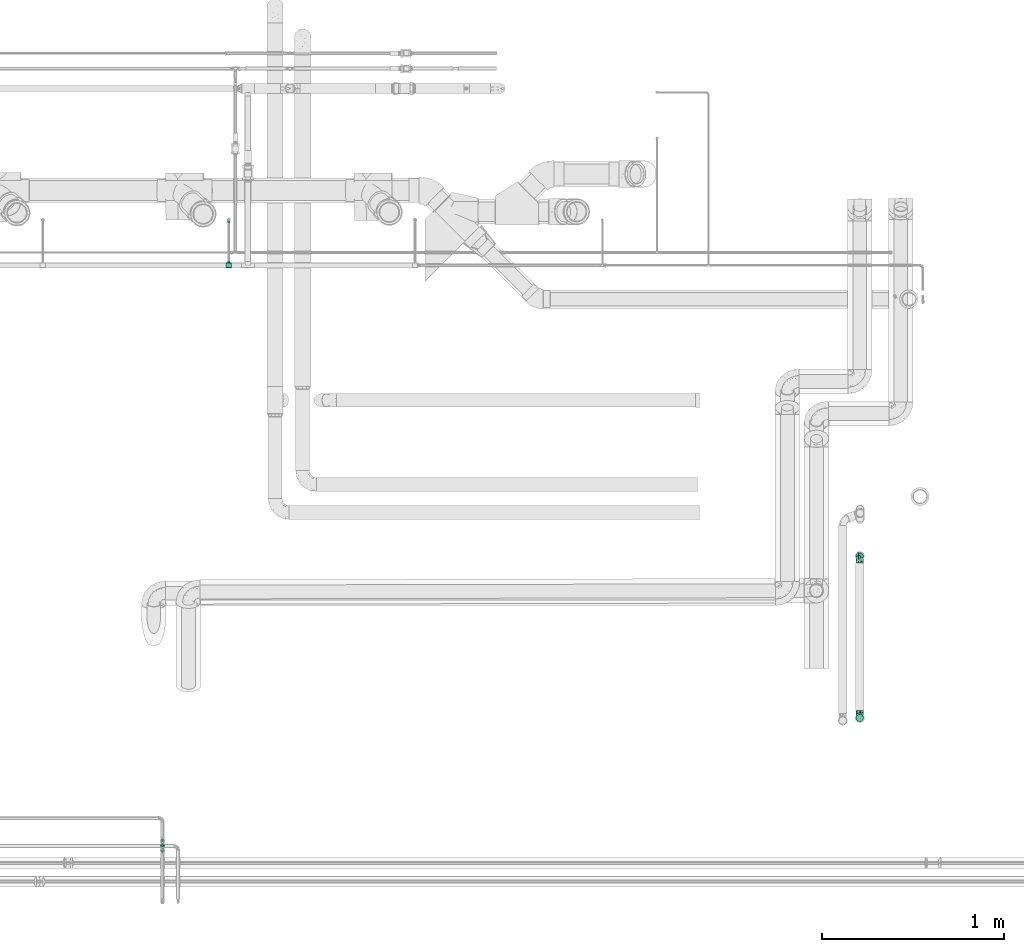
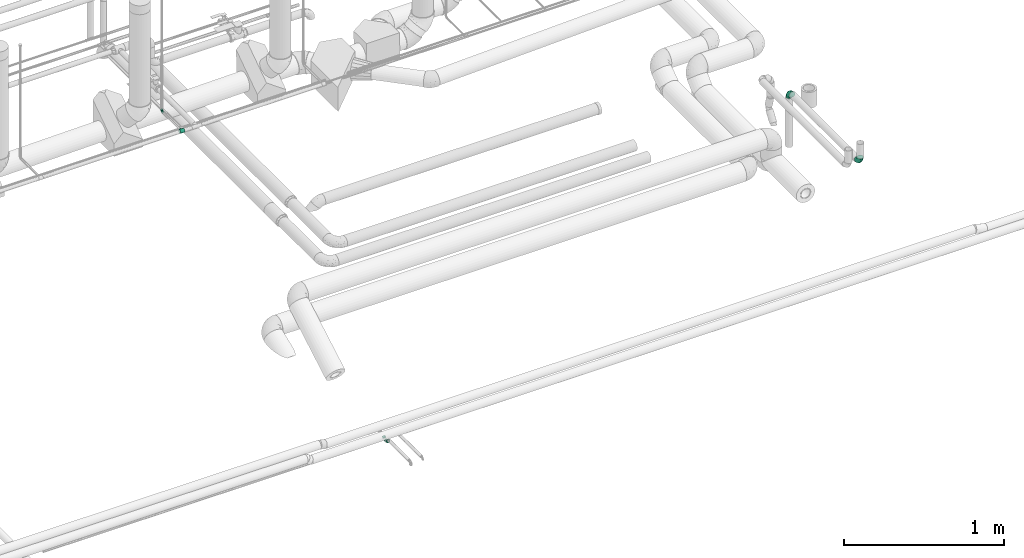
# One storey, part 84 of 156: 4 flow fittings, 3 flow segments.
"""IFC2X3 building model written with IfcOpenShell, lengths in millimetres."""

from ifc_helpers import new_model, entity, si_unit, converted_unit, derived_unit, direction, frame, origin_with_axes, origin_2d_with_axis, place, context, subcontext, project, spatial, hollow_circle, extrude, open_shell, surface_model, source, transform, mapped, type_object, element, save


model = new_model("IFC2X3")

# Units and contexts
model_context = context("Model", 3, precision=0.01, world=frame((0.0, 4.29681676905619e-09, 0.0)), true_north=direction((4.01073788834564e-13, 1.0)))
plan_context = context("Plan", 3, precision=0.01, world=frame((0.0, 4.29681676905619e-09, 0.0)), true_north=direction((4.01073788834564e-13, 1.0)))
body_context = subcontext(model_context, "Body", "Model", "MODEL_VIEW")
ifc_project = project(units=[converted_unit("PLANEANGLEUNIT", "DEGREE", entity("IfcPositiveLengthMeasure", 0.0174532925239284), si_unit("PLANEANGLEUNIT", "RADIAN"), dimensions=[0, 0, 0, 0, 0, 0, 0]), si_unit("AREAUNIT", "SQUARE_METRE"), si_unit("LENGTHUNIT", "METRE", prefix="MILLI"), si_unit("MASSUNIT", "GRAM", prefix="KILO"), si_unit("POWERUNIT", "WATT"), si_unit("PRESSUREUNIT", "PASCAL", prefix="KILO"), si_unit("FORCEUNIT", "NEWTON", prefix="KILO"), si_unit("ELECTRICVOLTAGEUNIT", "VOLT"), si_unit("ELECTRICCURRENTUNIT", "AMPERE"), si_unit("THERMODYNAMICTEMPERATUREUNIT", "DEGREE_CELSIUS"), si_unit("TIMEUNIT", "SECOND"), si_unit("VOLUMEUNIT", "CUBIC_METRE"), derived_unit("LINEARVELOCITYUNIT", [(si_unit("LENGTHUNIT", "METRE"), 1), (si_unit("TIMEUNIT", "SECOND"), -1)]), derived_unit("VOLUMETRICFLOWRATEUNIT", [(si_unit("VOLUMEUNIT", "CUBIC_METRE"), 1), (si_unit("TIMEUNIT", "SECOND"), -1)]), derived_unit("THERMALTRANSMITTANCEUNIT", [(si_unit("POWERUNIT", "WATT"), 1), (si_unit("THERMODYNAMICTEMPERATUREUNIT", "KELVIN"), -1), (si_unit("AREAUNIT", "SQUARE_METRE"), -1)]), derived_unit("SOUNDPRESSUREUNIT", [(si_unit("PRESSUREUNIT", "PASCAL"), 1)])], contexts=[model_context, plan_context])

# Site, building, storey
site_placement = place(None, frame((0.0, -4.29681676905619e-09, 0.0), z_axis=(0.0, 0.0, 1.0), x_axis=(1.0, 0.0, 0.0)))
site = spatial("IfcSite", under=ifc_project, at=site_placement, CompositionType="ELEMENT")
building_placement = place(site_placement, frame((0.0, 4.29681676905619e-09, 0.0), z_axis=(0.0, 0.0, 1.0), x_axis=(1.0, 0.0, 0.0)))
building = spatial("IfcBuilding", under=site, at=building_placement, Name="mc-building", CompositionType="ELEMENT")
storey_placement = place(building_placement, frame((0.0, 0.0, 205200.0), z_axis=(0.0, 0.0, 1.0), x_axis=(1.0, 0.0, 0.0)))
storey = spatial("IfcBuildingStorey", under=building, at=storey_placement, Name="Nivå D + 1,2 m", CompositionType="ELEMENT", Elevation=205200.0)

# Flow fittings
pipe_fitting_type_1 = type_object("IfcPipeFittingType", Name="magi_pipe_elbow_short_001", PredefinedType="BEND")
shared_shape_1 = source(origin_with_axes(), body_context, "Body", "SurfaceModel", [
    surface_model("IfcShellBasedSurfaceModel", [(-15.0, 0.0, -7.5), (-15.0, -6.49519, -3.75), (-15.0, 1.94114, -7.24444), (-15.0, 3.75, -6.49519), (-15.0, 5.3033, -5.3033), (-15.0, 7.24444, -1.94114), (-15.0, 6.49519, -3.75), (-15.0, -5.3033, -5.3033), (-15.0, -3.75, -6.49519), (-15.0, -1.94114, -7.24444), (-15.0, -7.24444, -1.94114), (-15.0, -7.5, 0.0), (-15.0, -6.49519, 3.75), (-15.0, 7.24444, 1.94114), (-15.0, 6.49519, 3.75), (-15.0, 3.75, 6.49519), (-15.0, 1.94114, 7.24444), (-15.0, 5.3033, 5.3033), (-15.0, -5.3033, 5.3033), (-15.0, -7.24444, 1.94114), (-15.0, -1.94114, 7.24444), (-15.0, 0.0, 7.5), (-15.0, -3.75, 6.49519), (-15.0, 7.5, 0.0), (-1.94114, 15.0, -7.24444), (6.49519, 15.0, -3.75), (0.0, 15.0, -7.5), (-5.3033, 15.0, -5.3033), (-3.75, 15.0, -6.49519), (-6.49519, 15.0, -3.75), (-7.24444, 15.0, -1.94114), (3.75, 15.0, -6.49519), (5.3033, 15.0, -5.3033), (1.94114, 15.0, -7.24444), (7.5, 15.0, 0.0), (7.24444, 15.0, -1.94114), (-7.24444, 15.0, 1.94114), (6.49519, 15.0, 3.75), (-3.75, 15.0, 6.49519), (-6.49519, 15.0, 3.75), (-1.94114, 15.0, 7.24444), (-5.3033, 15.0, 5.3033), (5.3033, 15.0, 5.3033), (7.24444, 15.0, 1.94114), (3.75, 15.0, 6.49519), (0.0, 15.0, 7.5), (1.94114, 15.0, 7.24444), (-7.5, 15.0, 0.0), (-13.40845, -7.07355, 0.0), (-8.7589, -2.47707, 6.60232), (-8.6338, -5.79418, 0.0), (-3.75, -4.48557, 0.0), (0.36779, -0.36779, 0.0), (2.42668, 1.69111, 0.0), (-2.25176, 0.98822, 6.3797), (-1.69111, -2.42668, 0.0), (-11.8169, -6.64709, 0.0), (-5.9304, 5.9304, 7.17811), (-4.11647, 8.02676, 7.20749), (2.47708, 8.7589, 6.60232), (1.67739, 4.87408, 5.99192), (4.48557, 3.75, 0.0), (-4.78013, -1.73268, 5.91836), (7.07355, 13.40845, 0.0), (6.64709, 11.8169, 0.0), (-8.02675, 4.11647, 7.20749), (-8.59835, 12.34835, 0.0), (-12.34835, 8.59835, 0.0), (-9.6967, 9.6967, 0.0), (5.79418, 8.6338, 0.0), (-8.7589, -2.47707, -6.60232), (-4.11647, 8.02676, -7.20749), (0.71542, 3.43733, -5.99192), (-2.23993, 1.78364, -6.69976), (2.47708, 8.7589, -6.60232), (-11.39207, 6.08032, -5.22727), (-7.08629, 1.82323, -7.49084), (-8.19523, 6.76007, -6.13545)], [open_shell([[[0, 1, 2]], [[3, 2, 4]], [[5, 6, 4]], [[4, 2, 1]], [[5, 4, 1]], [[7, 1, 8]], [[9, 8, 1]], [[10, 11, 1]], [[0, 9, 1]], [[11, 12, 1]], [[12, 5, 1]], [[13, 5, 12]], [[14, 13, 15]], [[13, 16, 15]], [[17, 14, 15]], [[16, 13, 12]], [[12, 18, 16]], [[12, 11, 19]], [[20, 21, 22]], [[18, 22, 21]], [[16, 18, 21]], [[13, 23, 5]], [[24, 25, 26]], [[27, 24, 28]], [[27, 29, 30]], [[25, 24, 27]], [[25, 27, 30]], [[31, 25, 32]], [[25, 31, 33]], [[25, 34, 35]], [[25, 33, 26]], [[30, 34, 25]], [[30, 36, 34]], [[34, 36, 37]], [[38, 36, 39]], [[38, 40, 36]], [[38, 39, 41]], [[37, 36, 40]], [[40, 42, 37]], [[43, 34, 37]], [[44, 45, 46]], [[45, 44, 42]], [[45, 42, 40]], [[36, 30, 47]], [[19, 48, 12]], [[49, 50, 51]], [[52, 53, 54]], [[54, 55, 52]], [[22, 18, 56]], [[12, 56, 18]], [[57, 54, 58]], [[22, 50, 20]], [[21, 20, 50]], [[59, 60, 61]], [[59, 58, 60]], [[55, 54, 62]], [[21, 50, 49]], [[21, 49, 16]], [[62, 49, 51]], [[62, 51, 55]], [[37, 63, 43]], [[49, 15, 16]], [[64, 63, 37]], [[13, 65, 23]], [[14, 17, 49]], [[54, 65, 62]], [[15, 49, 17]], [[57, 58, 66]], [[67, 57, 68]], [[53, 60, 54]], [[46, 45, 69]], [[69, 44, 46]], [[41, 59, 38]], [[40, 59, 45]], [[42, 44, 64]], [[54, 60, 58]], [[64, 44, 69]], [[61, 60, 53]], [[43, 63, 34]], [[59, 61, 69]], [[58, 47, 66]], [[22, 56, 50]], [[54, 57, 65]], [[49, 65, 14]], [[36, 47, 58]], [[64, 37, 42]], [[39, 36, 58]], [[14, 65, 13]], [[41, 39, 59]], [[19, 11, 48]], [[39, 58, 59]], [[48, 56, 12]], [[38, 59, 40]], [[59, 69, 45]], [[49, 62, 65]], [[57, 67, 65]], [[66, 68, 57]], [[67, 23, 65]], [[70, 50, 0]], [[71, 72, 73]], [[74, 71, 29]], [[70, 2, 3]], [[70, 51, 50]], [[35, 34, 63]], [[75, 4, 6]], [[75, 5, 23]], [[6, 5, 75]], [[51, 76, 55]], [[75, 23, 67]], [[70, 4, 75]], [[48, 11, 10]], [[8, 56, 7]], [[0, 50, 9]], [[51, 70, 76]], [[56, 8, 50]], [[8, 9, 50]], [[70, 0, 2]], [[66, 47, 71]], [[52, 72, 53]], [[4, 70, 3]], [[70, 75, 76]], [[73, 52, 55]], [[71, 68, 66]], [[61, 53, 72]], [[31, 64, 69]], [[30, 71, 47]], [[27, 74, 29]], [[56, 1, 7]], [[28, 24, 74]], [[63, 64, 25]], [[56, 48, 1]], [[28, 74, 27]], [[1, 48, 10]], [[26, 74, 24]], [[33, 69, 26]], [[29, 71, 30]], [[32, 64, 31]], [[69, 33, 31]], [[68, 71, 77]], [[74, 26, 69]], [[25, 35, 63]], [[61, 72, 74]], [[61, 74, 69]], [[67, 77, 75]], [[74, 72, 71]], [[25, 64, 32]], [[76, 77, 73]], [[75, 77, 76]], [[77, 71, 73]], [[55, 76, 73]], [[72, 52, 73]], [[77, 67, 68]]])]),
])
flow_fitting_1_placement = place(storey_placement, frame((326629.5275, 462562.63355, 4318.0), z_axis=(1.0, 0.0, 0.0), x_axis=(0.0, 1.0, 0.0)))
element("IfcFlowFitting", 1, at=flow_fitting_1_placement, inside=storey, type_object=pipe_fitting_type_1, Name="magi_pipe_elbow_short_001", context=body_context, shape_type="MappedRepresentation", body=[
    mapped(shared_shape_1, transform((0.0, 0.0, 0.0), scale=1.0)),
])
pipe_fitting_type_2 = type_object("IfcPipeFittingType", Name="magi_pipe_tee_centric_90_001", PredefinedType="JUNCTION")
shared_shape_2 = source(origin_with_axes(), body_context, "Body", "SurfaceModel", [
    surface_model("IfcShellBasedSurfaceModel", [(-15.0, 3.62347, -13.52296), (-15.0, 0.0, -14.0), (-15.0, 9.89949, -9.89949), (-15.0, 7.0, -12.12436), (-15.0, 13.52296, -3.62347), (-15.0, 12.12436, -7.0), (-15.0, -12.12436, -7.0), (-15.0, -9.89949, -9.89949), (-15.0, -7.0, -12.12436), (-15.0, -3.62347, -13.52296), (-15.0, -13.52296, -3.62347), (-15.0, -14.0, 0.0), (-15.0, 14.0, 0.0), (-15.0, 12.12436, 7.0), (-15.0, 13.52296, 3.62347), (-15.0, 3.62347, 13.52296), (-15.0, 7.0, 12.12436), (-15.0, 9.89949, 9.89949), (-15.0, 0.0, 14.0), (-15.0, -13.52296, 3.62347), (-15.0, -12.12436, 7.0), (-15.0, -9.89949, 9.89949), (-15.0, -7.0, 12.12436), (-15.0, -3.62347, 13.52296), (15.0, 9.89949, -9.89949), (15.0, 0.0, -14.0), (15.0, 3.62347, -13.52296), (15.0, 7.0, -12.12436), (15.0, 12.12436, -7.0), (15.0, 13.52296, -3.62347), (15.0, -12.12436, -7.0), (15.0, -7.0, -12.12436), (15.0, -9.89949, -9.89949), (15.0, -3.62347, -13.52296), (15.0, -14.0, 0.0), (15.0, -13.52296, -3.62347), (15.0, -7.0, 12.12436), (15.0, 14.0, 0.0), (15.0, 13.52296, 3.62347), (15.0, 12.12436, 7.0), (15.0, 3.62347, 13.52296), (15.0, 7.0, 12.12436), (15.0, 9.89949, 9.89949), (15.0, 0.0, 14.0), (15.0, -12.12436, 7.0), (15.0, -13.52296, 3.62347), (15.0, -9.89949, 9.89949), (15.0, -3.62347, 13.52296), (15.0, -13.76148, 1.81173), (7.03381, -13.75589, 2.60297), (7.5, -14.0, 0.0), (5.73139, -13.13769, 4.83748), (1.3253, -11.89565, 7.38198), (15.0, -12.82366, 5.31173), (3.77416, -12.40944, 6.48118), (-3.77483, -12.40965, 6.48079), (-15.0, -12.82366, 5.31173), (-5.73324, -13.1385, 4.83528), (-7.03405, -13.75601, 2.60233), (-15.0, -13.76148, 1.81173), (-7.5, -14.0, 0.0), (-1.32746, -11.89589, 7.38159), (-5.73324, -13.1385, -4.83528), (-15.0, -12.82366, -5.31173), (-15.0, -13.76148, -1.81173), (-7.03405, -13.75601, -2.60233), (3.77416, -12.40944, -6.48118), (15.0, -12.82366, -5.31173), (5.73139, -13.13769, -4.83748), (1.3253, -11.89565, -7.38198), (7.03381, -13.75589, -2.60297), (15.0, -13.76148, -1.81173), (-1.32746, -11.89589, -7.38159), (-3.77483, -12.40965, -6.48079), (5.3033, -21.0, -5.3033), (0.0, -21.0, -7.5), (1.94114, -21.0, -7.24444), (3.75, -21.0, -6.49519), (6.49519, -21.0, -3.75), (7.24444, -21.0, -1.94114), (-5.3033, -21.0, -5.3033), (-7.5, -21.0, 0.0), (-1.94114, -21.0, -7.24444), (-3.75, -21.0, -6.49519), (-6.49519, -21.0, -3.75), (-7.24444, -21.0, -1.94114), (3.75, -21.0, 6.49519), (7.5, -21.0, 0.0), (7.24444, -21.0, 1.94114), (6.49519, -21.0, 3.75), (0.0, -21.0, 7.5), (5.3033, -21.0, 5.3033), (1.94114, -21.0, 7.24444), (-7.24444, -21.0, 1.94114), (-5.3033, -21.0, 5.3033), (-6.49519, -21.0, 3.75), (-3.75, -21.0, 6.49519), (-1.94114, -21.0, 7.24444)], [open_shell([[[0, 1, 2]], [[3, 0, 2]], [[1, 4, 5]], [[2, 1, 5]], [[6, 4, 1]], [[7, 6, 8]], [[9, 8, 6]], [[10, 11, 6]], [[1, 9, 6]], [[6, 11, 4]], [[11, 12, 4]], [[13, 14, 12]], [[15, 13, 12]], [[13, 15, 16]], [[17, 13, 16]], [[18, 15, 12]], [[19, 20, 11]], [[20, 21, 11]], [[22, 23, 12]], [[21, 22, 11]], [[12, 23, 18]], [[12, 11, 22]], [[24, 25, 26]], [[24, 26, 27]], [[28, 29, 25]], [[28, 25, 24]], [[25, 29, 30]], [[31, 30, 32]], [[30, 31, 33]], [[30, 34, 35]], [[30, 33, 25]], [[30, 36, 34]], [[30, 29, 37]], [[37, 38, 39]], [[37, 39, 40]], [[41, 40, 39]], [[41, 39, 42]], [[37, 40, 43]], [[34, 44, 45]], [[34, 46, 44]], [[47, 36, 30]], [[34, 36, 46]], [[43, 47, 37]], [[30, 37, 47]], [[48, 45, 49]], [[50, 34, 48]], [[45, 51, 49]], [[44, 46, 52]], [[50, 48, 49]], [[51, 53, 54]], [[52, 54, 44]], [[46, 21, 52]], [[54, 53, 44]], [[55, 56, 57]], [[58, 59, 60]], [[11, 60, 59]], [[58, 57, 19]], [[55, 61, 20]], [[51, 45, 53]], [[20, 56, 55]], [[20, 61, 21]], [[57, 56, 19]], [[61, 52, 21]], [[58, 19, 59]], [[46, 22, 21]], [[18, 47, 43]], [[23, 36, 47]], [[15, 43, 40]], [[39, 38, 14]], [[17, 41, 42]], [[13, 42, 39]], [[40, 41, 16]], [[12, 38, 37]], [[22, 36, 23]], [[23, 47, 18]], [[15, 18, 43]], [[40, 16, 15]], [[16, 41, 17]], [[13, 17, 42]], [[14, 13, 39]], [[38, 12, 14]], [[36, 22, 46]], [[29, 12, 37]], [[4, 29, 28]], [[28, 24, 5]], [[9, 25, 33]], [[62, 10, 63]], [[1, 26, 25]], [[27, 26, 0]], [[33, 31, 8]], [[24, 27, 2]], [[2, 5, 24]], [[5, 4, 28]], [[4, 12, 29]], [[60, 64, 65]], [[3, 2, 27]], [[26, 1, 0]], [[25, 9, 1]], [[33, 8, 9]], [[66, 67, 68]], [[27, 0, 3]], [[31, 7, 8]], [[32, 30, 69]], [[70, 35, 71]], [[66, 69, 30]], [[67, 66, 30]], [[32, 69, 7]], [[34, 50, 71]], [[70, 68, 35]], [[70, 71, 50]], [[35, 68, 67]], [[72, 73, 6]], [[6, 7, 72]], [[62, 63, 73]], [[72, 7, 69]], [[62, 65, 10]], [[65, 64, 10]], [[64, 60, 11]], [[63, 6, 73]], [[32, 7, 31]], [[74, 75, 76]], [[74, 76, 77]], [[74, 78, 79]], [[75, 74, 80]], [[81, 74, 79]], [[82, 80, 83]], [[82, 75, 80]], [[84, 81, 85]], [[81, 84, 80]], [[74, 81, 80]], [[79, 86, 81]], [[87, 88, 89]], [[89, 86, 79]], [[86, 90, 81]], [[86, 89, 91]], [[90, 86, 92]], [[93, 94, 95]], [[94, 93, 90]], [[96, 90, 97]], [[90, 96, 94]], [[81, 90, 93]], [[89, 79, 87]], [[60, 81, 93]], [[58, 95, 94]], [[93, 95, 60]], [[94, 96, 58]], [[60, 95, 58]], [[57, 58, 97]], [[61, 55, 54]], [[57, 51, 55]], [[97, 90, 57]], [[96, 97, 58]], [[92, 51, 90]], [[86, 49, 92]], [[49, 91, 89]], [[86, 91, 49]], [[50, 89, 88]], [[51, 54, 55]], [[52, 61, 54]], [[89, 50, 49]], [[49, 51, 92]], [[88, 87, 50]], [[57, 90, 51]], [[50, 87, 79]], [[70, 78, 74]], [[79, 78, 50]], [[74, 77, 70]], [[50, 78, 70]], [[68, 70, 76]], [[69, 66, 72]], [[68, 73, 66]], [[76, 75, 68]], [[77, 76, 70]], [[62, 75, 82]], [[83, 65, 82]], [[65, 80, 84]], [[83, 80, 65]], [[60, 84, 85]], [[62, 73, 68]], [[72, 66, 73]], [[84, 60, 65]], [[65, 62, 82]], [[85, 81, 60]], [[68, 75, 62]]])]),
])
flow_fitting_2_placement = place(storey_placement, frame((326629.5275, 462313.63355, 4318.0), z_axis=(0.0, 0.0, 1.0), x_axis=(-1.0, 0.0, 0.0)))
element("IfcFlowFitting", 2, at=flow_fitting_2_placement, inside=storey, type_object=pipe_fitting_type_2, Name="magi_pipe_tee_centric_90_001", context=body_context, shape_type="MappedRepresentation", body=[
    mapped(shared_shape_2, transform((0.0, 0.0, 0.0), scale=1.0)),
])
shared_shape_3 = source(origin_with_axes(), body_context, "Body", "SurfaceModel", [
    surface_model("IfcShellBasedSurfaceModel", [(-40.0, 0.0, -20.0), (-40.0, -14.14214, -14.14214), (-40.0, 5.17638, -19.31852), (-40.0, 10.0, -17.32051), (-40.0, 14.14214, -14.14214), (-40.0, 19.31852, -5.17638), (-40.0, 17.32051, -10.0), (-40.0, -20.0, 0.0), (-40.0, 17.32051, 10.0), (-40.0, -10.0, -17.32051), (-40.0, -5.17638, -19.31852), (-40.0, -19.31852, -5.17638), (-40.0, -17.32051, -10.0), (-40.0, 20.0, 0.0), (-40.0, 19.31852, 5.17638), (-40.0, 5.17638, 19.31852), (-40.0, 10.0, 17.32051), (-40.0, 14.14214, 14.14214), (-40.0, -14.14214, 14.14214), (-40.0, -19.31852, 5.17638), (-40.0, -17.32051, 10.0), (-40.0, -10.0, 17.32051), (-40.0, -5.17638, 19.31852), (-40.0, 0.0, 20.0), (-5.17638, 40.0, -19.31852), (14.14214, 40.0, -14.14214), (0.0, 40.0, -20.0), (-14.14214, 40.0, -14.14214), (-10.0, 40.0, -17.32051), (-17.32051, 40.0, -10.0), (-19.31852, 40.0, -5.17638), (14.14214, 40.0, 14.14214), (20.0, 40.0, 0.0), (5.17638, 40.0, -19.31852), (10.0, 40.0, -17.32051), (17.32051, 40.0, -10.0), (19.31852, 40.0, -5.17638), (-20.0, 40.0, 0.0), (-19.31852, 40.0, 5.17638), (-17.32051, 40.0, 10.0), (-10.0, 40.0, 17.32051), (-5.17638, 40.0, 19.31852), (-14.14214, 40.0, 14.14214), (17.32051, 40.0, 10.0), (19.31852, 40.0, 5.17638), (5.17638, 40.0, 19.31852), (10.0, 40.0, 17.32051), (0.0, 40.0, 20.0), (-29.34188, -15.53782, 11.22746), (-26.26375, -11.53868, 14.90313), (-28.5195, -17.71639, 0.0), (-17.67969, -12.73676, 10.09432), (-26.581, -17.45622, 6.2376), (17.45622, 26.581, 6.2376), (14.11254, 15.66731, 5.12705), (15.43277, 17.03899, 0.0), (9.12884, 16.19937, 13.67918), (11.53868, 26.26374, 14.90313), (4.85407, 15.45219, 16.6156), (-29.39654, -7.56287, 17.99385), (-30.5536, -2.64945, 19.65795), (-28.00649, 3.06573, 19.96591), (-31.36589, 16.64512, 13.11423), (-28.65389, 20.90373, 9.14387), (-35.012, 18.78056, 8.28737), (-7.30629, -8.92959, 0.0), (-15.66731, -14.11254, 5.12706), (-17.03899, -15.43277, 0.0), (-21.08206, 22.33578, 14.16691), (-7.46564, 34.49868, 18.73357), (-2.74108, 29.91718, 19.95088), (-34.60263, 12.11166, 16.29648), (-1.72118, -3.38092, 9.01154), (-0.33521, 0.41269, 11.94686), (-6.79863, -4.78945, 12.32213), (-5.22056, 13.39548, 19.63795), (-9.93759, 3.66904, 18.67597), (-2.04318, 10.80545, 18.37976), (-20.59063, 29.29402, 9.05298), (-30.99684, 23.72923, 0.0), (-33.3079, 20.46931, 5.03972), (-30.83014, 7.84391, 18.89286), (-6.95093, 19.66798, 19.96412), (-14.81429, 14.81429, 19.51404), (-11.90902, 8.73983, 19.89698), (-3.57257, 3.57257, 16.3517), (-15.45219, -4.85407, 16.6156), (-19.91187, -0.17948, 19.38507), (12.73676, 17.67969, 10.09432), (15.53782, 29.34188, 11.22746), (7.56287, 29.39654, 17.99385), (2.64945, 30.5536, 19.65795), (-16.19937, -9.12884, 13.67918), (17.71639, 28.5195, 0.0), (-8.64963, 27.10049, 19.0472), (-12.63856, 30.97531, 16.57751), (-15.12775, 21.6204, 17.82326), (-16.43269, 26.57078, 15.30466), (-21.36029, 17.94675, 16.62052), (-27.3569, 23.76542, 4.76906), (-25.85786, 25.85786, 0.0), (-21.96234, 30.15713, 4.65165), (-16.51055, 31.89032, 13.05667), (-21.9775, 8.56694, 19.64209), (-19.62526, 4.90086, 19.99146), (-21.26232, 13.57052, 18.49883), (-11.65033, 20.761, 19.15903), (0.17948, 19.91187, 19.38507), (-27.54091, 13.57635, 16.84206), (4.55434, 6.94667, 12.66832), (-9.49254, -8.92796, 9.38786), (1.18751, -2.59773, 5.41318), (6.0734, 3.56218, 6.98463), (6.20309, 2.0761, 2.99722), (10.30126, 8.34257, 4.72404), (-23.72923, 30.99684, 0.0), (10.04165, 10.37513, 8.39403), (-5.39039, -7.95342, 5.80688), (2.42641, -2.42641, 0.0), (8.92959, 7.30629, 0.0), (-31.66153, 2.52887, -19.93491), (-17.30171, 29.27577, -13.34599), (-33.67189, -15.92112, -11.62006), (-30.77478, 7.85272, -18.89521), (-27.29854, 23.72276, -5.04381), (-16.33902, -5.04741, -16.77956), (-17.36687, -0.24948, -19.02234), (-8.03574, -0.33468, -16.38792), (-29.03652, 13.11356, -16.72682), (-31.62186, 16.57796, -13.08611), (11.94876, 28.93478, -15.1003), (6.90221, 25.32803, -17.78753), (7.88461, 33.77796, -18.20228), (-24.1205, 18.32787, -15.08398), (14.83158, 25.12948, -10.8327), (14.84608, 18.55034, -6.5666), (11.54106, 15.25773, -10.25258), (-18.52291, 23.24513, -15.40032), (-14.24293, 24.4556, -17.36881), (-18.4841, 18.4841, -17.5607), (-30.25505, -18.06161, 0.0), (-29.17694, -17.90454, -6.52017), (15.92112, 33.67189, -11.62006), (17.90454, 29.17694, -6.52017), (-8.70346, -9.83449, -6.69305), (-18.55035, -14.84608, -6.5666), (-28.93478, -11.94876, -15.1003), (0.19553, 0.48879, -11.49974), (-6.75335, -6.30847, -10.52412), (-6.08129, -2.80708, -13.65166), (-25.12948, -14.83158, -10.8327), (0.84196, 9.39483, -16.67908), (0.24948, 17.36687, -19.02234), (4.13362, 17.07423, -17.47196), (-29.4664, -2.52175, -19.63432), (-33.77796, -7.88461, -18.20228), (-21.82705, -9.13211, -15.70364), (2.52175, 29.4664, -19.63432), (-33.89754, 20.64393, -3.42388), (2.01203, -1.52334, -6.02964), (-19.61026, 31.73902, -8.71711), (-20.93556, 32.45716, -4.4545), (-15.25774, -11.54106, -10.25258), (-7.06048, 7.06048, -18.88537), (-24.30425, 23.77923, -9.81047), (-2.52887, 31.66153, -19.93491), (-8.16417, 29.098, -18.96542), (-12.55313, 31.39831, -16.5449), (-25.32803, -6.90221, -17.78753), (3.46973, 6.97784, -13.67949), (8.1585, 14.93305, -13.99093), (6.60421, 7.04526, -10.40775), (-4.72795, 22.03311, -19.99568), (9.83449, 8.70346, -6.69305), (-10.81456, 11.67039, -19.98865), (-11.83412, 18.95999, -19.40472), (-19.74646, 11.57433, -19.33963), (-31.97533, 19.65868, -8.43762), (18.06161, 30.25505, 0.0), (-22.03311, 4.72795, -19.99568), (-22.92893, 32.92893, 0.0), (-14.93305, -8.1585, -13.99093), (-22.3042, 22.6511, -12.97687)], [open_shell([[[0, 1, 2]], [[3, 2, 4]], [[5, 6, 4]], [[4, 2, 1]], [[4, 7, 8]], [[9, 1, 10]], [[1, 0, 10]], [[11, 7, 12]], [[1, 12, 7]], [[1, 7, 4]], [[13, 5, 4]], [[8, 14, 13]], [[7, 15, 8]], [[8, 15, 16]], [[17, 8, 16]], [[18, 15, 7]], [[19, 20, 7]], [[7, 20, 18]], [[21, 22, 18]], [[22, 15, 18]], [[15, 22, 23]], [[8, 13, 4]], [[24, 25, 26]], [[27, 24, 28]], [[27, 29, 30]], [[25, 24, 27]], [[31, 32, 27]], [[33, 25, 34]], [[33, 26, 25]], [[35, 32, 36]], [[32, 35, 25]], [[27, 32, 25]], [[27, 30, 31]], [[37, 38, 39]], [[30, 39, 31]], [[40, 41, 39]], [[40, 39, 42]], [[31, 39, 41]], [[32, 43, 44]], [[31, 43, 32]], [[31, 45, 46]], [[31, 41, 45]], [[47, 45, 41]], [[30, 37, 39]], [[18, 48, 49]], [[19, 7, 50]], [[51, 48, 52]], [[53, 54, 55]], [[48, 18, 20]], [[19, 52, 20]], [[56, 57, 58]], [[49, 21, 18]], [[49, 59, 21]], [[23, 60, 61]], [[62, 63, 64]], [[65, 66, 67]], [[57, 31, 46]], [[62, 68, 63]], [[41, 69, 70]], [[16, 71, 17]], [[22, 60, 23]], [[72, 73, 74]], [[75, 76, 77]], [[17, 62, 8]], [[39, 38, 78]], [[79, 13, 80]], [[64, 14, 8]], [[23, 61, 15]], [[15, 81, 16]], [[82, 83, 84]], [[74, 85, 86]], [[59, 86, 87]], [[88, 89, 57]], [[90, 46, 45]], [[43, 53, 44]], [[45, 47, 91]], [[54, 53, 88]], [[43, 89, 53]], [[92, 86, 49]], [[89, 43, 31]], [[21, 59, 22]], [[53, 55, 93]], [[93, 44, 53]], [[66, 52, 67]], [[94, 82, 70]], [[95, 96, 94]], [[97, 98, 96]], [[79, 99, 100]], [[40, 42, 95]], [[101, 100, 99]], [[68, 78, 63]], [[41, 40, 69]], [[13, 14, 80]], [[95, 94, 69]], [[78, 101, 99]], [[42, 102, 95]], [[70, 47, 41]], [[97, 95, 102]], [[19, 50, 52]], [[90, 57, 46]], [[57, 90, 58]], [[81, 15, 61]], [[103, 104, 84]], [[105, 81, 103]], [[42, 39, 102]], [[106, 96, 83]], [[94, 106, 82]], [[91, 70, 107]], [[71, 62, 17]], [[62, 108, 98]], [[86, 59, 49]], [[67, 52, 50]], [[60, 59, 87]], [[92, 49, 51]], [[86, 85, 76]], [[91, 90, 45]], [[32, 44, 93]], [[107, 77, 58]], [[107, 58, 90]], [[58, 85, 109]], [[110, 74, 92]], [[72, 74, 110]], [[66, 51, 52]], [[72, 111, 112]], [[113, 114, 112]], [[56, 88, 57]], [[52, 48, 20]], [[49, 48, 51]], [[57, 89, 31]], [[53, 89, 88]], [[103, 81, 61]], [[71, 81, 108]], [[14, 64, 80]], [[63, 78, 99]], [[37, 115, 101]], [[101, 115, 100]], [[39, 78, 102]], [[68, 102, 78]], [[97, 96, 95]], [[105, 98, 108]], [[103, 84, 83]], [[107, 70, 82]], [[76, 84, 87]], [[82, 84, 75]], [[70, 91, 47]], [[90, 91, 107]], [[59, 60, 22]], [[61, 60, 87]], [[73, 85, 74]], [[109, 112, 116]], [[103, 61, 104]], [[105, 103, 83]], [[96, 105, 83]], [[81, 105, 108]], [[96, 98, 105]], [[62, 98, 68]], [[61, 87, 104]], [[87, 84, 104]], [[86, 76, 87]], [[77, 76, 85]], [[58, 77, 85]], [[75, 77, 107]], [[82, 75, 107]], [[76, 75, 84]], [[81, 71, 16]], [[62, 71, 108]], [[95, 69, 40]], [[70, 69, 94]], [[62, 64, 8]], [[80, 63, 99]], [[63, 80, 64]], [[80, 99, 79]], [[66, 65, 117]], [[110, 66, 117]], [[112, 114, 116]], [[118, 117, 65]], [[110, 92, 51]], [[112, 111, 113]], [[119, 55, 54]], [[74, 86, 92]], [[58, 109, 56]], [[116, 56, 109]], [[66, 110, 51]], [[72, 110, 117]], [[111, 72, 117]], [[73, 112, 109]], [[117, 118, 111]], [[113, 111, 118]], [[118, 119, 113]], [[114, 119, 54]], [[119, 114, 113]], [[116, 54, 88]], [[54, 116, 114]], [[116, 88, 56]], [[112, 73, 72]], [[85, 73, 109]], [[78, 38, 101]], [[37, 101, 38]], [[102, 68, 97]], [[97, 68, 98]], [[82, 106, 83]], [[94, 96, 106]], [[2, 120, 0]], [[29, 27, 121]], [[1, 122, 12]], [[3, 123, 2]], [[100, 124, 79]], [[125, 126, 127]], [[128, 4, 129]], [[130, 131, 132]], [[128, 129, 133]], [[134, 135, 136]], [[137, 138, 139]], [[128, 3, 4]], [[67, 140, 141]], [[134, 142, 143]], [[141, 11, 12]], [[144, 65, 145]], [[146, 1, 9]], [[147, 148, 149]], [[145, 141, 150]], [[151, 152, 153]], [[154, 10, 0]], [[9, 155, 146]], [[150, 146, 156]], [[155, 9, 10]], [[143, 135, 134]], [[33, 157, 26]], [[13, 79, 158]], [[148, 159, 144]], [[160, 161, 30]], [[145, 162, 144]], [[163, 152, 151]], [[30, 29, 160]], [[121, 164, 160]], [[34, 25, 130]], [[26, 165, 24]], [[24, 165, 166]], [[142, 25, 35]], [[27, 28, 167]], [[124, 161, 164]], [[157, 33, 132]], [[155, 154, 168]], [[123, 3, 128]], [[169, 170, 171]], [[172, 157, 152]], [[24, 166, 28]], [[132, 33, 34]], [[142, 130, 25]], [[168, 154, 126]], [[136, 135, 173]], [[133, 137, 139]], [[4, 6, 129]], [[170, 131, 130]], [[35, 36, 143]], [[172, 174, 175]], [[176, 123, 128]], [[158, 177, 5]], [[135, 55, 119]], [[167, 28, 166]], [[175, 166, 172]], [[137, 167, 138]], [[122, 141, 12]], [[140, 7, 11]], [[36, 32, 178]], [[170, 130, 134]], [[152, 157, 131]], [[165, 157, 172]], [[153, 170, 151]], [[152, 163, 174]], [[168, 125, 156]], [[122, 146, 150]], [[120, 154, 0]], [[179, 174, 126]], [[179, 126, 154]], [[126, 163, 127]], [[162, 145, 150]], [[140, 11, 141]], [[36, 178, 143]], [[55, 143, 178]], [[177, 129, 6]], [[128, 133, 139]], [[176, 128, 139]], [[120, 123, 179]], [[121, 160, 29]], [[161, 100, 180]], [[166, 175, 138]], [[121, 27, 167]], [[161, 37, 30]], [[79, 124, 158]], [[124, 164, 177]], [[161, 124, 100]], [[136, 171, 170]], [[127, 163, 151]], [[147, 171, 159]], [[148, 144, 162]], [[127, 151, 169]], [[127, 181, 125]], [[129, 177, 164]], [[6, 5, 177]], [[159, 65, 144]], [[67, 141, 145]], [[143, 55, 135]], [[135, 119, 173]], [[123, 120, 2]], [[154, 120, 179]], [[157, 165, 26]], [[166, 165, 172]], [[172, 152, 174]], [[176, 139, 175]], [[126, 174, 163]], [[176, 174, 179]], [[174, 176, 175]], [[123, 176, 179]], [[150, 181, 162]], [[127, 149, 181]], [[181, 148, 162]], [[159, 148, 147]], [[171, 136, 173]], [[170, 134, 136]], [[159, 171, 173]], [[171, 147, 169]], [[169, 147, 149]], [[151, 170, 169]], [[164, 182, 129]], [[182, 121, 137]], [[181, 149, 148]], [[169, 149, 127]], [[182, 137, 133]], [[167, 137, 121]], [[166, 138, 167]], [[175, 139, 138]], [[129, 182, 133]], [[121, 182, 164]], [[161, 160, 164]], [[37, 161, 180]], [[177, 158, 124]], [[13, 158, 5]], [[130, 132, 34]], [[157, 132, 131]], [[143, 142, 35]], [[130, 142, 134]], [[154, 155, 10]], [[146, 155, 168]], [[146, 122, 1]], [[141, 122, 150]], [[152, 131, 153]], [[159, 119, 118]], [[67, 145, 65]], [[170, 153, 131]], [[119, 159, 173]], [[159, 118, 65]], [[156, 125, 181]], [[126, 125, 168]], [[150, 156, 181]], [[168, 156, 146]]])]),
])
for number, where, z_axis, x_axis, name in (
    (3, (330095.2081, 460717.29788, 4374.42444999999), (1.0, 0.0, 0.0), (0.0, 0.0, 1.0), "magi_pipe_elbow_short_001"),
    (4, (330095.2081, 459827.29788, 4374.42444999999), (-1.0, 0.0, 0.0), (0.0, -1.0, 0.0), "magi_pipe_elbow_short_001"),
):
    element("IfcFlowFitting", number, at=place(storey_placement, frame(where, z_axis=z_axis, x_axis=x_axis)), inside=storey, type_object=pipe_fitting_type_1, Name=name, context=body_context, shape_type="MappedRepresentation", body=[
        mapped(shared_shape_3, transform((0.0, 0.0, 0.0), scale=1.0)),
    ])

# Flow segments
pipe_segment_type = type_object("IfcPipeSegmentType", Name="Stålrør normaltykke", PredefinedType="RIGIDSEGMENT")
shared_shape_4 = source(origin_with_axes(), body_context, "Body", "SweptSolid", [
    extrude(hollow_circle(Radius=10.7, WallThickness=2.0, at=origin_2d_with_axis()), frame((0.0, 0.0, 0.0), z_axis=(1.0, 0.0, 0.0), x_axis=(0.0, 1.0, 0.0)), (0.0, 0.0, 1.0), 15.9),
])
for number, where, z_axis, x_axis in (
    (5, (326265.45854, 459157.41621, 4031.73209), (0.0, -0.707106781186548, 0.707106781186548), (0.0, -0.707106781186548, -0.707106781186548)),
    (6, (326265.45854, 459106.14106, 4020.49275999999), (0.0, 0.707106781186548, 0.707106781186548), (0.0, -0.707106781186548, 0.707106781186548)),
):
    element("IfcFlowSegment", number, at=place(storey_placement, frame(where, z_axis=z_axis, x_axis=x_axis)), inside=storey, type_object=pipe_segment_type, Name="Stålrør normaltykke", context=body_context, shape_type="MappedRepresentation", body=[
        mapped(shared_shape_4, transform((0.0, 0.0, 0.0), scale=1.0)),
    ])
shared_shape_5 = source(origin_with_axes(), body_context, "Body", "SweptSolid", [
    extrude(hollow_circle(Radius=10.7, WallThickness=2.0, at=origin_2d_with_axis()), frame((0.0, 0.0, 0.0), z_axis=(1.0, 0.0, 0.0), x_axis=(0.0, 1.0, 0.0)), (0.0, 0.0, 1.0), 9.8),
])
flow_segment_placement = place(storey_placement, frame((326265.45854, 459131.0448, 4014.22485), z_axis=(0.0, 0.0, 1.0), x_axis=(0.0, -1.0, 0.0)))
element("IfcFlowSegment", 7, at=flow_segment_placement, inside=storey, type_object=pipe_segment_type, Name="Stålrør normaltykke", context=body_context, shape_type="MappedRepresentation", body=[
    mapped(shared_shape_5, transform((0.0, 0.0, 0.0), scale=1.0)),
])

save(model, "model.ifc")
